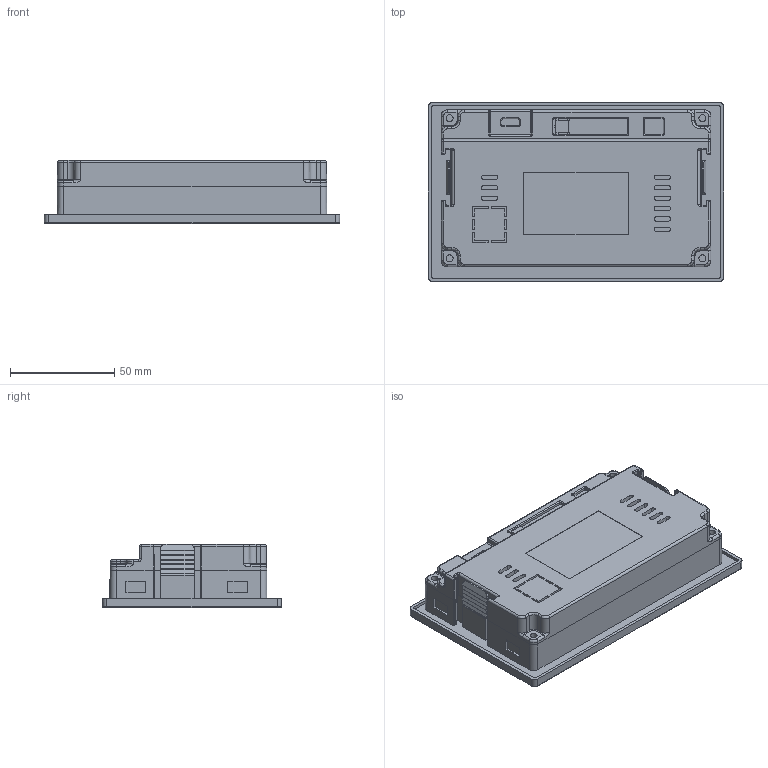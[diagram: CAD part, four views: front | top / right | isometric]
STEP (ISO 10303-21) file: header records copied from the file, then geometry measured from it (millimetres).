
FILE_DESCRIPTION((''),'2;1');
FILE_NAME('430E','2018-04-17T',('Administrator'),(''),'PRO/ENGINEER BY PARAMETRIC TECHNOLOGY CORPORATION, 2010280','PRO/ENGINEER BY PARAMETRIC TECHNOLOGY CORPORATION, 2010280','');
FILE_SCHEMA(('CONFIG_CONTROL_DESIGN'));
Length unit declared in the file: millimetre
Products named in the file (1): 430E
Bounding box: 142 x 86 x 30.3 mm (x, y, z)
Volume: 275434 mm3; surface area: 44086.4 mm2
Topology: 1 solids, 9 shells, 731 faces, 1861 edges, 1164 vertices
Faces by surface type: plane 430, cylinder 224, bspline 52, torus 12, sphere 8, cone 5
Entity records: 25610 total; most frequent: CARTESIAN_POINT 8386, ORIENTED_EDGE 3722, DIRECTION 3295, EDGE_CURVE 1861, VECTOR 1335, LINE 1335, VERTEX_POINT 1164, AXIS2_PLACEMENT_3D 980
